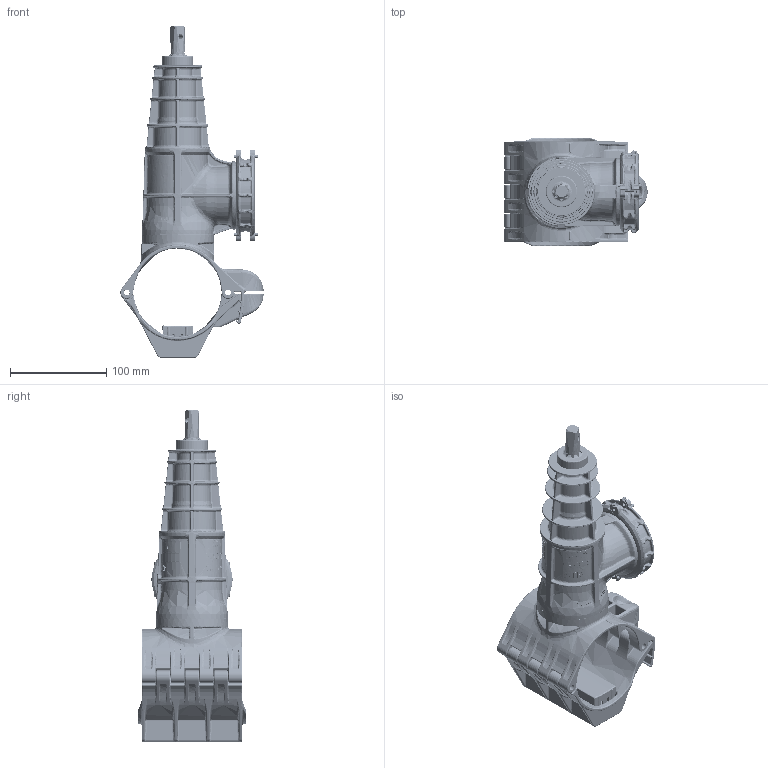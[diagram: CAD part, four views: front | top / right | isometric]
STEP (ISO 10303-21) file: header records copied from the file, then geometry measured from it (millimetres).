
FILE_DESCRIPTION(('STEP AP214'),'1');
FILE_NAME('700658.stp','2019-04-05T06:19:58',('CAD-PIM'),('TransMagic, Inc.'),'TMR12sp0','TransMagic R12',' ');
FILE_SCHEMA(('AUTOMOTIVE_DESIGN'));
Length unit declared in the file: millimetre
Products named in the file (1): 700658 (1)
Bounding box: 149.18 x 113 x 345.8 mm (x, y, z)
Volume: 903067.2 mm3; surface area: 209331.1 mm2
Topology: 1 solids, 1 shells, 5173 faces, 13024 edges, 7693 vertices
Faces by surface type: bspline 5173
Entity records: 380796 total; most frequent: CARTESIAN_POINT 144923, STYLED_ITEM 25622, PRESENTATION_STYLE_ASSIGNMENT 25622, COLOUR_RGB 25622, ORIENTED_EDGE 25510, EDGE_CURVE 12755, CURVE_STYLE 12755, DRAUGHTING_PRE_DEFINED_CURVE_FONT 12755
